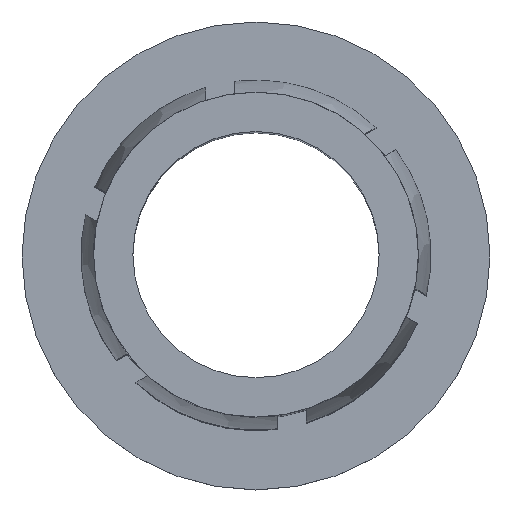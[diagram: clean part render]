
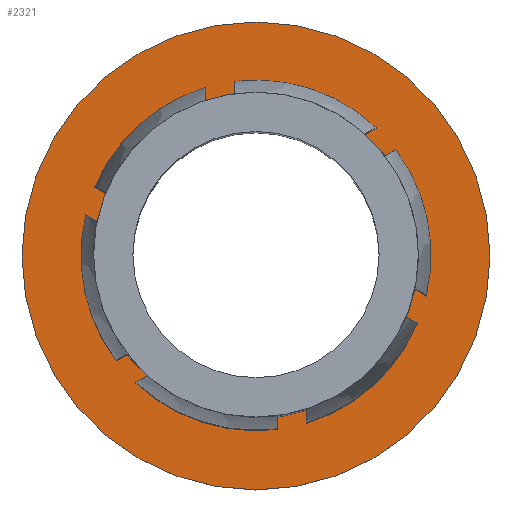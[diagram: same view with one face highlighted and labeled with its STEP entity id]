
A CAD part, top view. The second image highlights one B-rep face of the part: STEP entity #2321.
In plain terms, the highlighted planar face has unit normal (0, 0, 1).
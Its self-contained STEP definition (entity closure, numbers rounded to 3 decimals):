
#307 = EDGE_LOOP ( 'NONE', ( #2215 ) ) ;
#537 = ORIENTED_EDGE ( 'NONE', *, *, #3820, .F. ) ;
#563 = VERTEX_POINT ( 'NONE', #3136 ) ;
#798 = DIRECTION ( 'NONE',  ( -1., 0., 0. ) ) ;
#861 = EDGE_CURVE ( 'NONE', #4454, #4454, #3626, .T. ) ;
#1035 = PLANE ( 'NONE',  #4235 ) ;
#1285 = DIRECTION ( 'NONE',  ( 0., 0., -1. ) ) ;
#1647 = CARTESIAN_POINT ( 'NONE',  ( 5.471, 0., -29.688 ) ) ;
#1665 = CIRCLE ( 'NONE', #3801, 5.563 ) ;
#1863 = CARTESIAN_POINT ( 'NONE',  ( 13.484, 0., -29.688 ) ) ;
#2013 = DIRECTION ( 'NONE',  ( -1., 0., 0. ) ) ;
#2138 = EDGE_LOOP ( 'NONE', ( #537 ) ) ;
#2215 = ORIENTED_EDGE ( 'NONE', *, *, #861, .F. ) ;
#2232 = FACE_BOUND ( 'NONE', #2138, .T. ) ;
#2321 = ADVANCED_FACE ( 'NONE', ( #3198, #2232 ), #1035, .F. ) ;
#2734 = CARTESIAN_POINT ( 'NONE',  ( 5.471, 0., -29.688 ) ) ;
#3136 = CARTESIAN_POINT ( 'NONE',  ( -0.092, 0., -29.688 ) ) ;
#3157 = AXIS2_PLACEMENT_3D ( 'NONE', #2734, #3179, #3200 ) ;
#3179 = DIRECTION ( 'NONE',  ( 0., 0., -1. ) ) ;
#3198 = FACE_OUTER_BOUND ( 'NONE', #307, .T. ) ;
#3200 = DIRECTION ( 'NONE',  ( -1., 0., 0. ) ) ;
#3626 = CIRCLE ( 'NONE', #3157, 8.014 ) ;
#3801 = AXIS2_PLACEMENT_3D ( 'NONE', #1647, #4195, #2013 ) ;
#3820 = EDGE_CURVE ( 'NONE', #563, #563, #1665, .T. ) ;
#4195 = DIRECTION ( 'NONE',  ( 0., 0., 1. ) ) ;
#4227 = CARTESIAN_POINT ( 'NONE',  ( -2.543, 0., -29.688 ) ) ;
#4235 = AXIS2_PLACEMENT_3D ( 'NONE', #1863, #1285, #798 ) ;
#4454 = VERTEX_POINT ( 'NONE', #4227 ) ;
